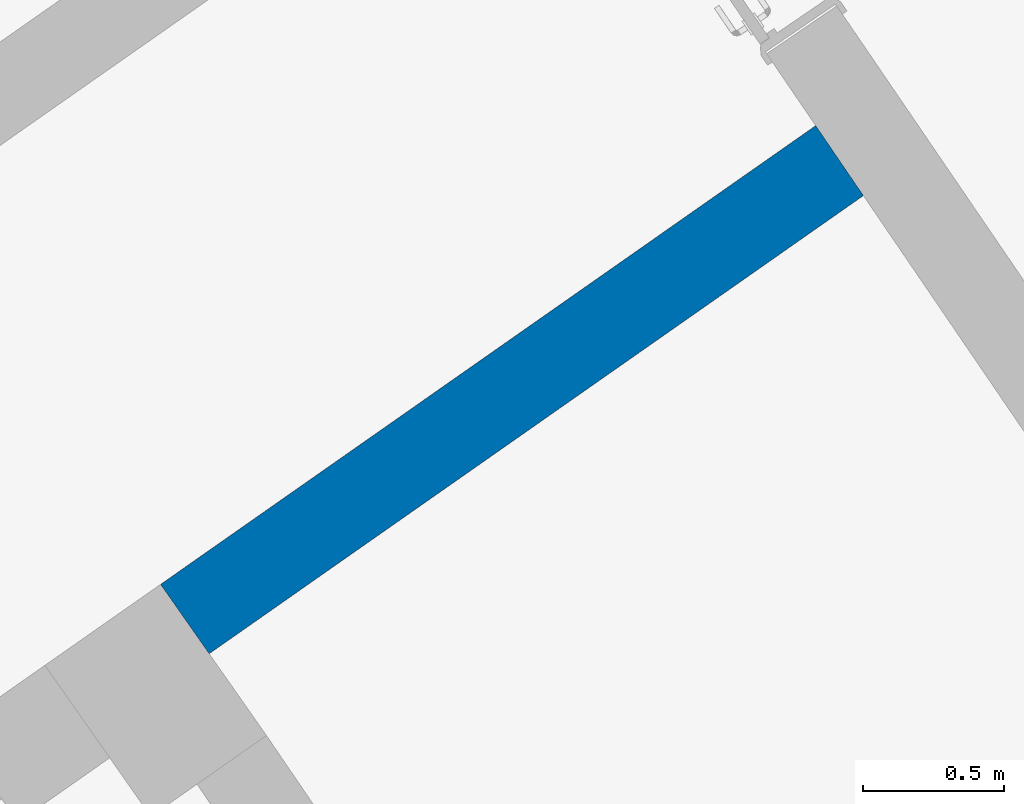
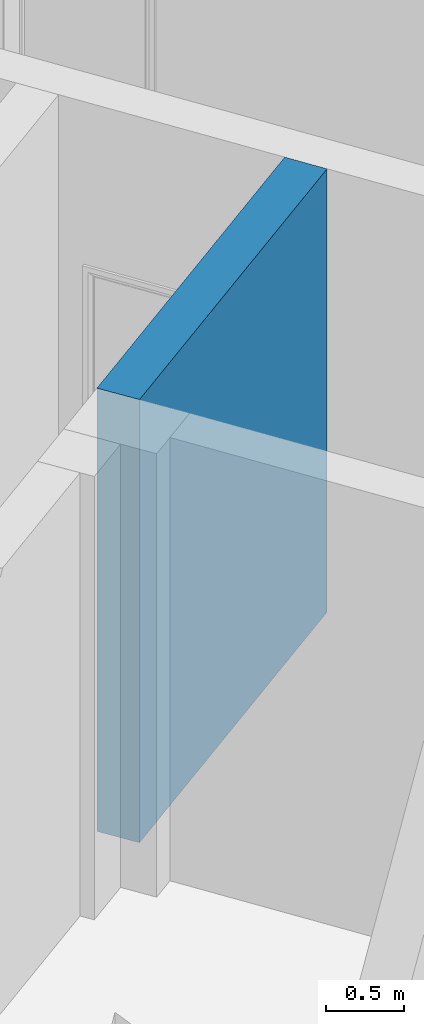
# One storey, part 34 of 112: 1 wall.
"""IFC2X3 building model written with IfcOpenShell, lengths in millimetres."""

from ifc_helpers import new_model, entity, si_unit, converted_unit, derived_unit, direction, frame, origin, place, context, subcontext, project, spatial, polyline, outline, extrude, material, layer, layer_set, layer_usage, type_object, element, save


model = new_model("IFC2X3")

# Units and contexts
model_context = context("Model", 3, precision=0.01, world=origin(), true_north=direction((6.123031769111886e-17, 1.0)))
body_context = subcontext(model_context, "Body", "Model", "MODEL_VIEW")
ifc_project = project(units=[si_unit("LENGTHUNIT", "METRE", prefix="MILLI"), si_unit("AREAUNIT", "SQUARE_METRE"), si_unit("VOLUMEUNIT", "CUBIC_METRE"), converted_unit("PLANEANGLEUNIT", "DEGREE", entity("IfcRatioMeasure", 0.017453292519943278), si_unit("PLANEANGLEUNIT", "RADIAN"), dimensions=[0, 0, 0, 0, 0, 0, 0]), si_unit("MASSUNIT", "GRAM", prefix="KILO"), derived_unit("MASSDENSITYUNIT", [(si_unit("MASSUNIT", "GRAM", prefix="KILO"), 1), (si_unit("LENGTHUNIT", "METRE"), -3)]), derived_unit("MOMENTOFINERTIAUNIT", [(si_unit("LENGTHUNIT", "METRE"), 4)]), si_unit("TIMEUNIT", "SECOND"), si_unit("FREQUENCYUNIT", "HERTZ"), si_unit("THERMODYNAMICTEMPERATUREUNIT", "DEGREE_CELSIUS"), derived_unit("THERMALTRANSMITTANCEUNIT", [(si_unit("MASSUNIT", "GRAM", prefix="KILO"), 1), (si_unit("THERMODYNAMICTEMPERATUREUNIT", "KELVIN"), -1), (si_unit("TIMEUNIT", "SECOND"), -3)]), derived_unit("THERMALCONDUCTANCEUNIT", [(si_unit("MASSUNIT", "GRAM", prefix="KILO"), 1), (si_unit("LENGTHUNIT", "METRE"), 1), (si_unit("THERMODYNAMICTEMPERATUREUNIT", "KELVIN"), -1), (si_unit("TIMEUNIT", "SECOND"), -3)]), derived_unit("VOLUMETRICFLOWRATEUNIT", [(si_unit("LENGTHUNIT", "METRE"), 3), (si_unit("TIMEUNIT", "SECOND"), -1)]), derived_unit("MASSFLOWRATEUNIT", [(si_unit("MASSUNIT", "GRAM", prefix="KILO"), 1), (si_unit("TIMEUNIT", "SECOND"), -1)]), derived_unit("ROTATIONALFREQUENCYUNIT", [(si_unit("TIMEUNIT", "SECOND"), -1)]), si_unit("ELECTRICCURRENTUNIT", "AMPERE"), si_unit("ELECTRICVOLTAGEUNIT", "VOLT"), si_unit("POWERUNIT", "WATT"), converted_unit("FORCEUNIT", "KIP", entity("IfcRatioMeasure", 2.088543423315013e-05), si_unit("FORCEUNIT", "NEWTON"), dimensions=[1, 1, -2, 0, 0, 0, 0]), si_unit("ILLUMINANCEUNIT", "LUX"), si_unit("LUMINOUSFLUXUNIT", "LUMEN"), si_unit("LUMINOUSINTENSITYUNIT", "CANDELA"), derived_unit("USERDEFINED", [(si_unit("MASSUNIT", "GRAM", prefix="KILO"), -1), (si_unit("LENGTHUNIT", "METRE"), -2), (si_unit("TIMEUNIT", "SECOND"), 3), (si_unit("LUMINOUSFLUXUNIT", "LUMEN"), 1)]), derived_unit("USERDEFINED", [(si_unit("MASSUNIT", "GRAM", prefix="KILO"), 1), (si_unit("LENGTHUNIT", "METRE"), 3), (si_unit("TIMEUNIT", "SECOND"), -3), (si_unit("ELECTRICCURRENTUNIT", "AMPERE"), -2)]), derived_unit("USERDEFINED", [(si_unit("LENGTHUNIT", "METRE"), 2), (si_unit("TIMEUNIT", "SECOND"), -2)]), derived_unit("SOUNDPOWERUNIT", [(si_unit("MASSUNIT", "GRAM", prefix="KILO"), 1), (si_unit("LENGTHUNIT", "METRE"), 2), (si_unit("TIMEUNIT", "SECOND"), -3)]), derived_unit("SOUNDPRESSUREUNIT", [(si_unit("MASSUNIT", "GRAM", prefix="KILO"), 1), (si_unit("LENGTHUNIT", "METRE"), -1), (si_unit("TIMEUNIT", "SECOND"), -2)]), derived_unit("LINEARVELOCITYUNIT", [(si_unit("LENGTHUNIT", "METRE"), 1), (si_unit("TIMEUNIT", "SECOND"), -1)]), si_unit("PRESSUREUNIT", "PASCAL"), derived_unit("USERDEFINED", [(si_unit("LENGTHUNIT", "METRE"), -2), (si_unit("MASSUNIT", "GRAM", prefix="KILO"), 1), (si_unit("TIMEUNIT", "SECOND"), -2)]), derived_unit("LINEARFORCEUNIT", [(si_unit("MASSUNIT", "GRAM", prefix="KILO"), 1), (si_unit("LENGTHUNIT", "METRE"), 1), (si_unit("TIMEUNIT", "SECOND"), -2), (si_unit("LENGTHUNIT", "METRE"), -1)]), derived_unit("PLANARFORCEUNIT", [(si_unit("MASSUNIT", "GRAM", prefix="KILO"), 1), (si_unit("LENGTHUNIT", "METRE"), 1), (si_unit("TIMEUNIT", "SECOND"), -2), (si_unit("LENGTHUNIT", "METRE"), -2)]), derived_unit("SPECIFICHEATCAPACITYUNIT", [(si_unit("LENGTHUNIT", "METRE"), 2), (si_unit("TIMEUNIT", "SECOND"), -2), (si_unit("THERMODYNAMICTEMPERATUREUNIT", "KELVIN"), -1)]), derived_unit("VAPORPERMEABILITYUNIT", [(si_unit("TIMEUNIT", "SECOND"), 1), (si_unit("LENGTHUNIT", "METRE"), -1)]), derived_unit("DYNAMICVISCOSITYUNIT", [(si_unit("MASSUNIT", "GRAM", prefix="KILO"), 1), (si_unit("LENGTHUNIT", "METRE"), -1), (si_unit("TIMEUNIT", "SECOND"), -1)]), derived_unit("THERMALEXPANSIONCOEFFICIENTUNIT", [(si_unit("THERMODYNAMICTEMPERATUREUNIT", "KELVIN"), -1)])], contexts=[model_context])

# Site, building, storey
site_placement = place(None, frame((0.0, 0.0, 0.0), z_axis=(0.0, 0.0, 1.0), x_axis=(0.8191520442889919, 0.5735764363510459, 0.0)))
site = spatial("IfcSite", under=ifc_project, at=site_placement, Name="Default", CompositionType="ELEMENT")
building_placement = place(site_placement, origin())
building = spatial("IfcBuilding", under=site, at=building_placement, CompositionType="ELEMENT")
storey_placement = place(building_placement, frame((0.0, 0.0, -3600.0)))
storey = spatial("IfcBuildingStorey", under=building, at=storey_placement, Name="0.UG -3.60", CompositionType="ELEMENT", Elevation=-3600.0000000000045)

# Wall
ifc_material = material(Name="Analytical Wall Surface_CJC")
ifc_layer = layer(ifc_material, 300.0)
ifc_layer_set = layer_set([ifc_layer], Name="Basic Wall:Wand_Innen_30")
ifc_layer_usage = layer_usage(ifc_layer_set, "AXIS2", "POSITIVE", -150.0)
wall_type = type_object("IfcWallType", Name="Basic Wall:Wand_Innen_30", PredefinedType="STANDARD", material=ifc_layer_set)
wall_placement = place(storey_placement, frame((-214172.02072554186, 109696.35891435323, 0.0), z_axis=(0.0, 0.0, 1.0), x_axis=(-1.0, 0.0, 0.0)))
element("IfcWallStandardCase", 1, at=wall_placement, inside=storey, type_object=wall_type, material=ifc_layer_usage, Name="Basic Wall:Wand_Innen_30", ObjectType="Basic Wall:Wand_Innen_30", context=body_context, shape_type="SweptSolid", body=[
    extrude(outline(polyline([(2833.5525669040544, -150.0), (2833.5525669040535, 150.0), (3.819185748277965, 150.0), (0.0, -150.0), (2833.5525669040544, -150.0)])), origin(), (0.0, 0.0, 1.0), 3450.0),
])

save(model, "model.ifc")
